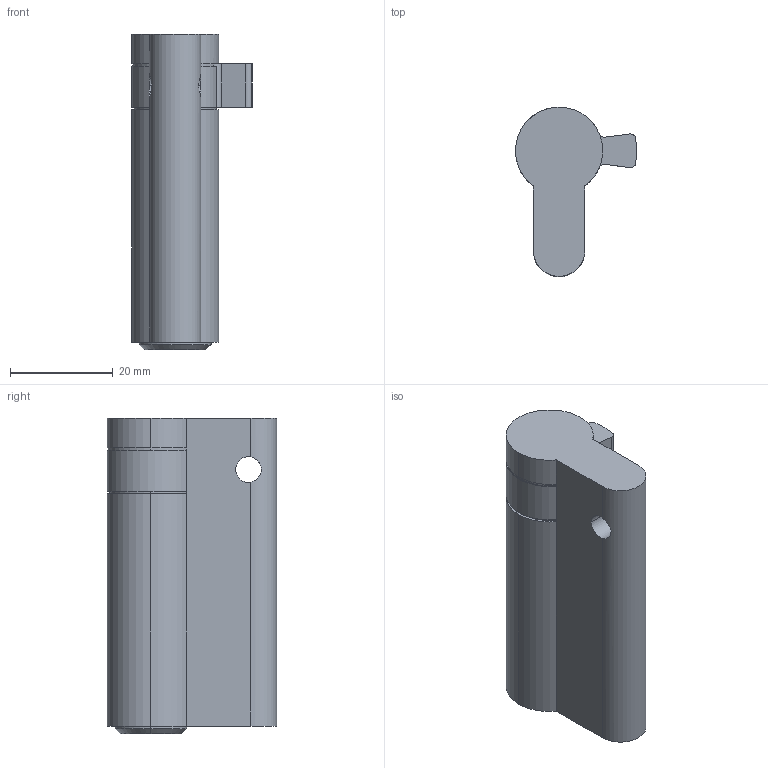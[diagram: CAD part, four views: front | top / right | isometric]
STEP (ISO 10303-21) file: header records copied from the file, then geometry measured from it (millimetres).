
FILE_DESCRIPTION (( 'STEP AP214' ), '1' );
FILE_NAME ('TPL-H-EU-510-L 29Oct2024.STEP', '2024-10-29T22:14:53', ( '' ), ( '' ), 'SwSTEP 2.0', 'SolidWorks 2023', '' );
FILE_SCHEMA (( 'AUTOMOTIVE_DESIGN' ));
Length unit declared in the file: millimetre
Products named in the file (1): TPL-H-EU-510-L 29Oct2024
Bounding box: 23.58 x 33 x 61.5 mm (x, y, z)
Volume: 22894.5 mm3; surface area: 6649.6 mm2
Topology: 1 solids, 1 shells, 45 faces, 124 edges, 78 vertices
Faces by surface type: cylinder 26, plane 16, cone 3
Entity records: 1540 total; most frequent: CARTESIAN_POINT 318, DIRECTION 271, ORIENTED_EDGE 248, EDGE_CURVE 124, AXIS2_PLACEMENT_3D 107, VERTEX_POINT 78, CIRCLE 61, VECTOR 57
